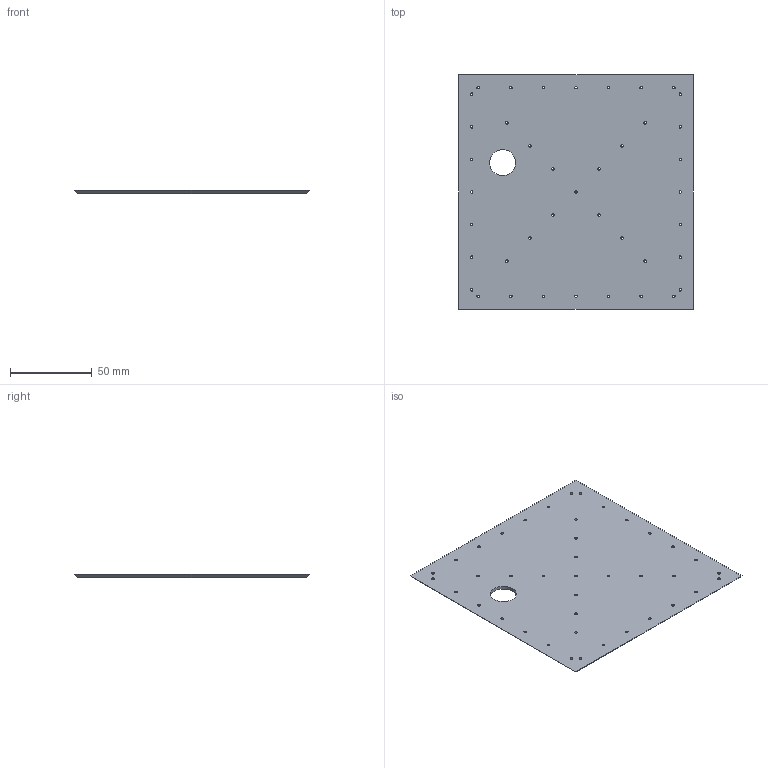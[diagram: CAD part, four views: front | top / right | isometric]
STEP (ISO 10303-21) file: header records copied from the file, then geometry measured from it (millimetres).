
FILE_DESCRIPTION (( 'STEP AP214' ), '1' );
FILE_NAME ('SC1.STEP', '2016-02-27T09:35:03', ( '' ), ( '' ), 'SwSTEP 2.0', 'SolidWorks 2012', '' );
FILE_SCHEMA (( 'AUTOMOTIVE_DESIGN' ));
Length unit declared in the file: millimetre
Products named in the file (1): SC1
Bounding box: 144 x 144 x 2 mm (x, y, z)
Volume: 39763.7 mm3; surface area: 41888.3 mm2
Topology: 1 solids, 1 shells, 90 faces, 264 edges, 176 vertices
Faces by surface type: cylinder 84, plane 6
Entity records: 3298 total; most frequent: DIRECTION 614, CARTESIAN_POINT 531, ORIENTED_EDGE 528, EDGE_CURVE 264, AXIS2_PLACEMENT_3D 259, VERTEX_POINT 176, EDGE_LOOP 174, CIRCLE 168
